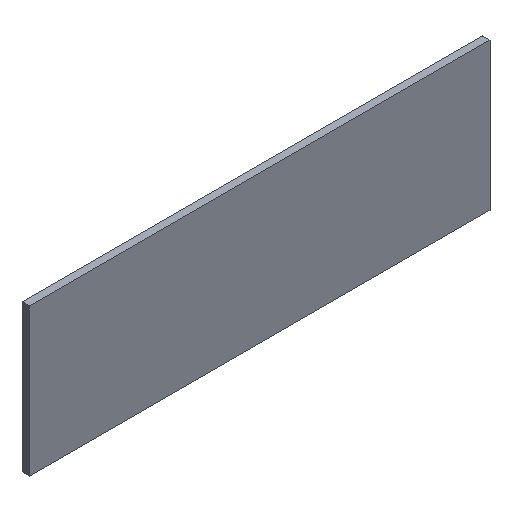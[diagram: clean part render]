
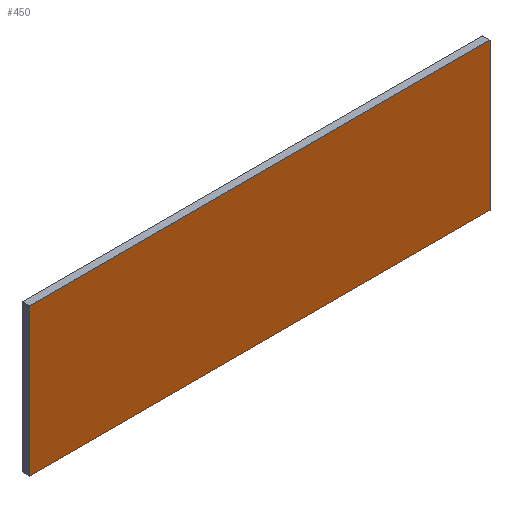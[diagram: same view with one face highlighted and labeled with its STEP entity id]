
A CAD part, isometric view. The second image highlights one B-rep face of the part: STEP entity #450.
In plain terms, the highlighted planar face has unit normal (0, -1, 0).
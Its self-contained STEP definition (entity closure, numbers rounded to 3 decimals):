
#4 = ORIENTED_EDGE ( 'NONE', *, *, #58, .F. ) ;
#14 = VERTEX_POINT ( 'NONE', #60 ) ;
#49 = FACE_OUTER_BOUND ( 'NONE', #96, .T. ) ;
#50 = ORIENTED_EDGE ( 'NONE', *, *, #70, .F. ) ;
#53 = CARTESIAN_POINT ( 'NONE',  ( -12.5, 0., 4. ) ) ;
#54 = LINE ( 'NONE', #526, #323 ) ;
#58 = EDGE_CURVE ( 'NONE', #14, #598, #257, .T. ) ;
#60 = CARTESIAN_POINT ( 'NONE',  ( 12.5, 0., -4. ) ) ;
#64 = AXIS2_PLACEMENT_3D ( 'NONE', #461, #644, #111 ) ;
#70 = EDGE_CURVE ( 'NONE', #598, #94, #677, .T. ) ;
#86 = VECTOR ( 'NONE', #292, 1000. ) ;
#94 = VERTEX_POINT ( 'NONE', #606 ) ;
#96 = EDGE_LOOP ( 'NONE', ( #627, #756, #50, #4 ) ) ;
#111 = DIRECTION ( 'NONE',  ( 0., 0., 1. ) ) ;
#134 = CARTESIAN_POINT ( 'NONE',  ( 12.5, 0., 4. ) ) ;
#143 = CARTESIAN_POINT ( 'NONE',  ( -12.5, 0., -4. ) ) ;
#191 = DIRECTION ( 'NONE',  ( 0., 0., 1. ) ) ;
#251 = CARTESIAN_POINT ( 'NONE',  ( -12.5, 0., -4. ) ) ;
#257 = LINE ( 'NONE', #143, #614 ) ;
#292 = DIRECTION ( 'NONE',  ( 1., 0., 0. ) ) ;
#294 = CARTESIAN_POINT ( 'NONE',  ( -12.5, 0., -4. ) ) ;
#323 = VECTOR ( 'NONE', #354, 1000. ) ;
#354 = DIRECTION ( 'NONE',  ( 0., 0., -1. ) ) ;
#379 = DIRECTION ( 'NONE',  ( -1., 0., 0. ) ) ;
#382 = VECTOR ( 'NONE', #191, 1000. ) ;
#409 = LINE ( 'NONE', #53, #86 ) ;
#450 = ADVANCED_FACE ( 'NONE', ( #49 ), #522, .F. ) ;
#461 = CARTESIAN_POINT ( 'NONE',  ( 0., 0., 0. ) ) ;
#492 = EDGE_CURVE ( 'NONE', #736, #14, #54, .T. ) ;
#522 = PLANE ( 'NONE',  #64 ) ;
#526 = CARTESIAN_POINT ( 'NONE',  ( 12.5, 0., -4. ) ) ;
#598 = VERTEX_POINT ( 'NONE', #294 ) ;
#606 = CARTESIAN_POINT ( 'NONE',  ( -12.5, 0., 4. ) ) ;
#607 = EDGE_CURVE ( 'NONE', #94, #736, #409, .T. ) ;
#614 = VECTOR ( 'NONE', #379, 1000. ) ;
#627 = ORIENTED_EDGE ( 'NONE', *, *, #492, .F. ) ;
#644 = DIRECTION ( 'NONE',  ( 0., 1., 0. ) ) ;
#677 = LINE ( 'NONE', #251, #382 ) ;
#736 = VERTEX_POINT ( 'NONE', #134 ) ;
#756 = ORIENTED_EDGE ( 'NONE', *, *, #607, .F. ) ;
